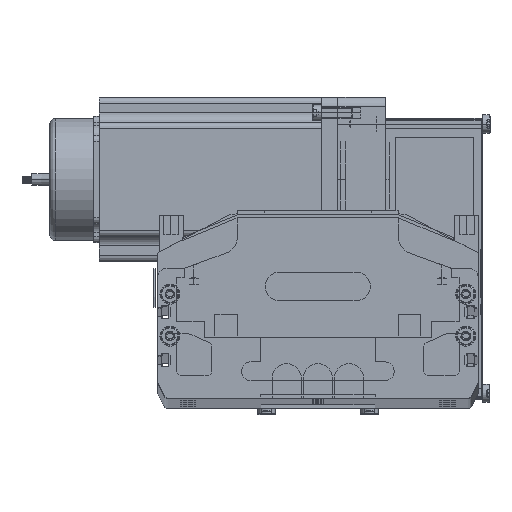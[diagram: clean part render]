
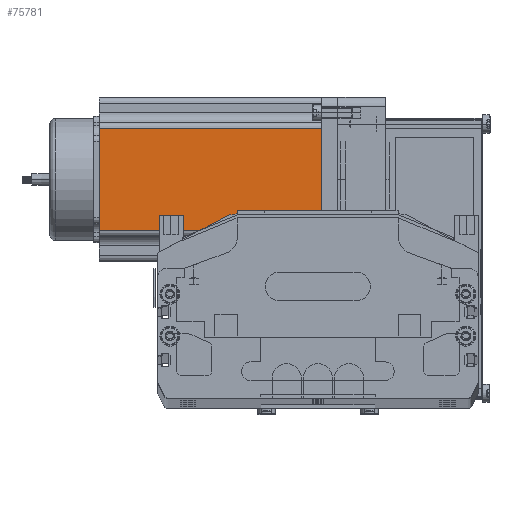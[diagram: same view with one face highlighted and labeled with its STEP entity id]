
A CAD part, top view. The second image highlights one B-rep face of the part: STEP entity #75781.
In plain terms, the highlighted planar face has unit normal (0, 0, 1) as drawn and (0, -1, 0) by its records, which use the part's own axes.
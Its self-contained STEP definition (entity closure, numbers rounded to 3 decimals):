
#28493 = CARTESIAN_POINT ( 'NONE',  ( 0., 0., 116.5 ) ) ;
#28501 = AXIS2_PLACEMENT_3D ( 'NONE', #28493, #28581, #28580 ) ;
#28522 = FACE_OUTER_BOUND ( 'NONE', #75785, .T. ) ;
#28570 = CARTESIAN_POINT ( 'NONE',  ( 16.16, 0., 116.5 ) ) ;
#28580 = DIRECTION ( 'NONE',  ( 0., 0., 1. ) ) ;
#28581 = DIRECTION ( 'NONE',  ( 0., 1., 0. ) ) ;
#28586 = PLANE ( 'NONE',  #28501 ) ;
#28601 = CARTESIAN_POINT ( 'NONE',  ( 69.74, 0., 0. ) ) ;
#28608 = DIRECTION ( 'NONE',  ( 0., 0., 1. ) ) ;
#28609 = VECTOR ( 'NONE', #28608, 1000. ) ;
#28610 = CARTESIAN_POINT ( 'NONE',  ( 69.74, 0., 116.5 ) ) ;
#28612 = LINE ( 'NONE', #28610, #28609 ) ;
#28616 = CARTESIAN_POINT ( 'NONE',  ( 69.74, 0., 116.5 ) ) ;
#35780 = DIRECTION ( 'NONE',  ( 1., 0., 0. ) ) ;
#35781 = VECTOR ( 'NONE', #35780, 1000. ) ;
#35782 = CARTESIAN_POINT ( 'NONE',  ( 0., 0., 116.5 ) ) ;
#35785 = DIRECTION ( 'NONE',  ( 1., 0., 0. ) ) ;
#35786 = VECTOR ( 'NONE', #35785, 1000. ) ;
#35787 = CARTESIAN_POINT ( 'NONE',  ( 0., 0., 0. ) ) ;
#35792 = LINE ( 'NONE', #35782, #35781 ) ;
#35805 = LINE ( 'NONE', #35787, #35786 ) ;
#35816 = CARTESIAN_POINT ( 'NONE',  ( 16.16, 0., 0. ) ) ;
#35861 = DIRECTION ( 'NONE',  ( 0., 0., -1. ) ) ;
#35862 = VECTOR ( 'NONE', #35861, 1000. ) ;
#35863 = CARTESIAN_POINT ( 'NONE',  ( 16.16, 0., 116.5 ) ) ;
#35879 = LINE ( 'NONE', #35863, #35862 ) ;
#75692 = ORIENTED_EDGE ( 'NONE', *, *, #75705, .F. ) ;
#75703 = EDGE_CURVE ( 'NONE', #75717, #75805, #35805, .T. ) ;
#75705 = EDGE_CURVE ( 'NONE', #75799, #75798, #35792, .T. ) ;
#75717 = VERTEX_POINT ( 'NONE', #35816 ) ;
#75719 = ORIENTED_EDGE ( 'NONE', *, *, #75703, .T. ) ;
#75720 = ORIENTED_EDGE ( 'NONE', *, *, #75731, .T. ) ;
#75731 = EDGE_CURVE ( 'NONE', #75799, #75717, #35879, .T. ) ;
#75781 = ADVANCED_FACE ( 'NONE', ( #28522 ), #28586, .F. ) ;
#75785 = EDGE_LOOP ( 'NONE', ( #75719, #75807, #75692, #75720 ) ) ;
#75798 = VERTEX_POINT ( 'NONE', #28616 ) ;
#75799 = VERTEX_POINT ( 'NONE', #28570 ) ;
#75800 = EDGE_CURVE ( 'NONE', #75805, #75798, #28612, .T. ) ;
#75805 = VERTEX_POINT ( 'NONE', #28601 ) ;
#75807 = ORIENTED_EDGE ( 'NONE', *, *, #75800, .T. ) ;
